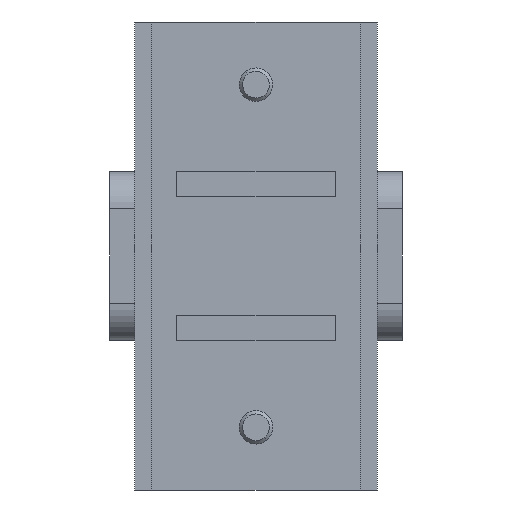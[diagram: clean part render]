
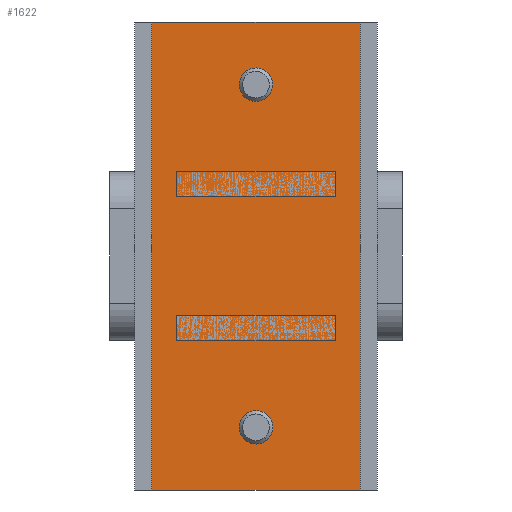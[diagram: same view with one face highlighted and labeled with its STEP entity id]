
A CAD part, front view. The second image highlights one B-rep face of the part: STEP entity #1622.
In plain terms, the highlighted planar face has unit normal (0, -1, 0).
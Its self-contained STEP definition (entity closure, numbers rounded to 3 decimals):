
#26 = ORIENTED_EDGE ( 'NONE', *, *, #2968, .F. ) ;
#84 = VECTOR ( 'NONE', #718, 1000. ) ;
#295 = LINE ( 'NONE', #4918, #84 ) ;
#525 = ORIENTED_EDGE ( 'NONE', *, *, #6005, .F. ) ;
#572 = LINE ( 'NONE', #5731, #7699 ) ;
#595 = DIRECTION ( 'NONE',  ( -1., 0., 0. ) ) ;
#718 = DIRECTION ( 'NONE',  ( 1., 0., 0. ) ) ;
#729 = PLANE ( 'NONE',  #7845 ) ;
#916 = FACE_OUTER_BOUND ( 'NONE', #2386, .T. ) ;
#1105 = CIRCLE ( 'NONE', #8144, 3.4 ) ;
#1147 = ORIENTED_EDGE ( 'NONE', *, *, #7244, .F. ) ;
#1362 = DIRECTION ( 'NONE',  ( -1., 0., 0. ) ) ;
#1379 = CARTESIAN_POINT ( 'NONE',  ( -70.134, -123.183, 0. ) ) ;
#1550 = VERTEX_POINT ( 'NONE', #4839 ) ;
#1587 = CIRCLE ( 'NONE', #5736, 3.4 ) ;
#1622 = ADVANCED_FACE ( 'NONE', ( #916, #8802, #5864 ), #729, .T. ) ;
#1646 = ORIENTED_EDGE ( 'NONE', *, *, #2286, .F. ) ;
#2031 = DIRECTION ( 'NONE',  ( 0., -1., 0. ) ) ;
#2267 = DIRECTION ( 'NONE',  ( -1., 0., 0. ) ) ;
#2286 = EDGE_CURVE ( 'NONE', #4996, #1550, #572, .T. ) ;
#2298 = CARTESIAN_POINT ( 'NONE',  ( -95.134, -123.183, 56. ) ) ;
#2386 = EDGE_LOOP ( 'NONE', ( #26, #1646, #1147, #525 ) ) ;
#2554 = DIRECTION ( 'NONE',  ( 0., 1., 0. ) ) ;
#2578 = EDGE_CURVE ( 'NONE', #8310, #8100, #6073, .T. ) ;
#2618 = EDGE_CURVE ( 'NONE', #3279, #6474, #1105, .T. ) ;
#2622 = EDGE_LOOP ( 'NONE', ( #4336, #2723 ) ) ;
#2723 = ORIENTED_EDGE ( 'NONE', *, *, #5698, .T. ) ;
#2729 = CARTESIAN_POINT ( 'NONE',  ( -70.134, -123.183, 41. ) ) ;
#2968 = EDGE_CURVE ( 'NONE', #1550, #7389, #3682, .T. ) ;
#3279 = VERTEX_POINT ( 'NONE', #4167 ) ;
#3319 = CARTESIAN_POINT ( 'NONE',  ( -95.134, -123.183, 56. ) ) ;
#3682 = LINE ( 'NONE', #3319, #3788 ) ;
#3788 = VECTOR ( 'NONE', #3988, 1000. ) ;
#3810 = ORIENTED_EDGE ( 'NONE', *, *, #4957, .T. ) ;
#3988 = DIRECTION ( 'NONE',  ( 0., 0., 1. ) ) ;
#4054 = ORIENTED_EDGE ( 'NONE', *, *, #2618, .T. ) ;
#4167 = CARTESIAN_POINT ( 'NONE',  ( -73.534, -123.183, 41. ) ) ;
#4282 = CARTESIAN_POINT ( 'NONE',  ( -45.134, -123.183, -56. ) ) ;
#4336 = ORIENTED_EDGE ( 'NONE', *, *, #2578, .T. ) ;
#4542 = DIRECTION ( 'NONE',  ( -1., 0., 0. ) ) ;
#4544 = CARTESIAN_POINT ( 'NONE',  ( -45.134, -123.183, 56. ) ) ;
#4730 = DIRECTION ( 'NONE',  ( 0., 1., 0. ) ) ;
#4839 = CARTESIAN_POINT ( 'NONE',  ( -95.134, -123.183, -56. ) ) ;
#4918 = CARTESIAN_POINT ( 'NONE',  ( -45.134, -123.183, 56. ) ) ;
#4957 = EDGE_CURVE ( 'NONE', #6474, #3279, #7320, .T. ) ;
#4996 = VERTEX_POINT ( 'NONE', #7120 ) ;
#5111 = DIRECTION ( 'NONE',  ( -1., 0., 0. ) ) ;
#5692 = CARTESIAN_POINT ( 'NONE',  ( -66.734, -123.183, -41. ) ) ;
#5698 = EDGE_CURVE ( 'NONE', #8100, #8310, #1587, .T. ) ;
#5731 = CARTESIAN_POINT ( 'NONE',  ( -95.134, -123.183, -56. ) ) ;
#5736 = AXIS2_PLACEMENT_3D ( 'NONE', #5935, #2554, #4542 ) ;
#5770 = VECTOR ( 'NONE', #7003, 1000. ) ;
#5864 = FACE_BOUND ( 'NONE', #2622, .T. ) ;
#5935 = CARTESIAN_POINT ( 'NONE',  ( -70.134, -123.183, -41. ) ) ;
#6005 = EDGE_CURVE ( 'NONE', #7389, #7553, #295, .T. ) ;
#6073 = CIRCLE ( 'NONE', #6859, 3.4 ) ;
#6191 = DIRECTION ( 'NONE',  ( 1., 0., 0. ) ) ;
#6251 = AXIS2_PLACEMENT_3D ( 'NONE', #8589, #6391, #5111 ) ;
#6391 = DIRECTION ( 'NONE',  ( 0., 1., 0. ) ) ;
#6474 = VERTEX_POINT ( 'NONE', #8176 ) ;
#6801 = CARTESIAN_POINT ( 'NONE',  ( -70.134, -123.183, -41. ) ) ;
#6859 = AXIS2_PLACEMENT_3D ( 'NONE', #6801, #4730, #1362 ) ;
#7003 = DIRECTION ( 'NONE',  ( 0., 0., -1. ) ) ;
#7120 = CARTESIAN_POINT ( 'NONE',  ( -45.134, -123.183, -56. ) ) ;
#7244 = EDGE_CURVE ( 'NONE', #7553, #4996, #7613, .T. ) ;
#7276 = CARTESIAN_POINT ( 'NONE',  ( -73.534, -123.183, -41. ) ) ;
#7281 = EDGE_LOOP ( 'NONE', ( #4054, #3810 ) ) ;
#7320 = CIRCLE ( 'NONE', #6251, 3.4 ) ;
#7389 = VERTEX_POINT ( 'NONE', #2298 ) ;
#7503 = DIRECTION ( 'NONE',  ( 0., 1., 0. ) ) ;
#7553 = VERTEX_POINT ( 'NONE', #4544 ) ;
#7613 = LINE ( 'NONE', #4282, #5770 ) ;
#7699 = VECTOR ( 'NONE', #2267, 1000. ) ;
#7845 = AXIS2_PLACEMENT_3D ( 'NONE', #1379, #2031, #6191 ) ;
#8100 = VERTEX_POINT ( 'NONE', #5692 ) ;
#8144 = AXIS2_PLACEMENT_3D ( 'NONE', #2729, #7503, #595 ) ;
#8176 = CARTESIAN_POINT ( 'NONE',  ( -66.734, -123.183, 41. ) ) ;
#8310 = VERTEX_POINT ( 'NONE', #7276 ) ;
#8589 = CARTESIAN_POINT ( 'NONE',  ( -70.134, -123.183, 41. ) ) ;
#8802 = FACE_BOUND ( 'NONE', #7281, .T. ) ;
